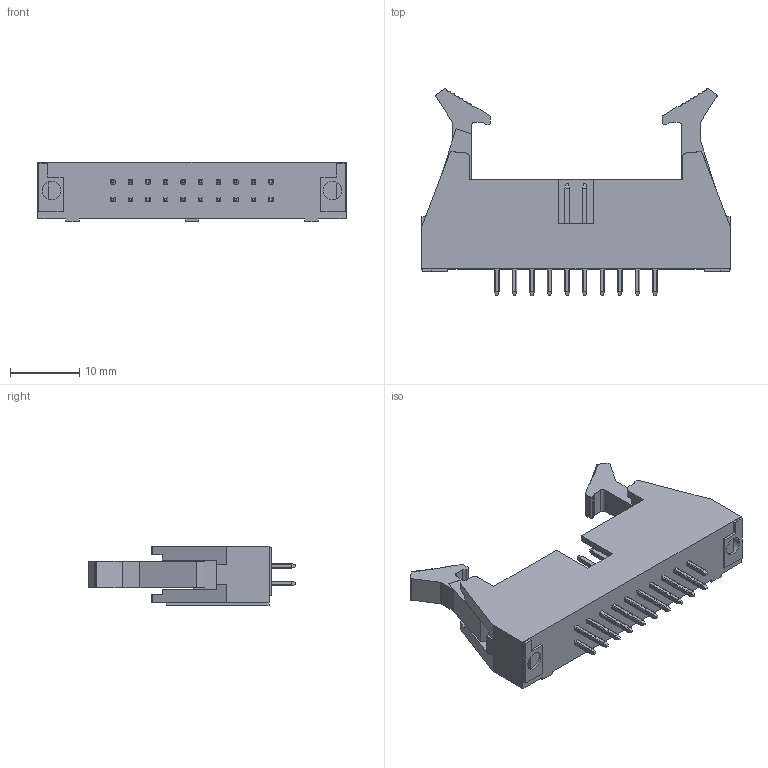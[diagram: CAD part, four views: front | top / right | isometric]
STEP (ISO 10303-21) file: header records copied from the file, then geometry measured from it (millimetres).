
FILE_DESCRIPTION (( 'STEP AP214' ), '1' );
FILE_NAME ('3011-20G00SB1A.STEP', '2021-05-06T05:22:44', ( 'RD07' ), ( '' ), 'SwSTEP 2.0', 'SolidWorks 2016', '' );
FILE_SCHEMA (( 'AUTOMOTIVE_DESIGN' ));
Length unit declared in the file: millimetre
Products named in the file (1): 3011-20G00SB1A
Bounding box: 44.58 x 29.96 x 8.6 mm (x, y, z)
Volume: 3897.5 mm3; surface area: 3896.1 mm2
Topology: 3 solids, 3 shells, 644 faces, 1692 edges, 1098 vertices
Faces by surface type: plane 516, cylinder 128
Entity records: 21046 total; most frequent: CARTESIAN_POINT 3915, ORIENTED_EDGE 3384, DIRECTION 3002, EDGE_CURVE 1692, LINE 1352, VECTOR 1352, VERTEX_POINT 1098, AXIS2_PLACEMENT_3D 825
